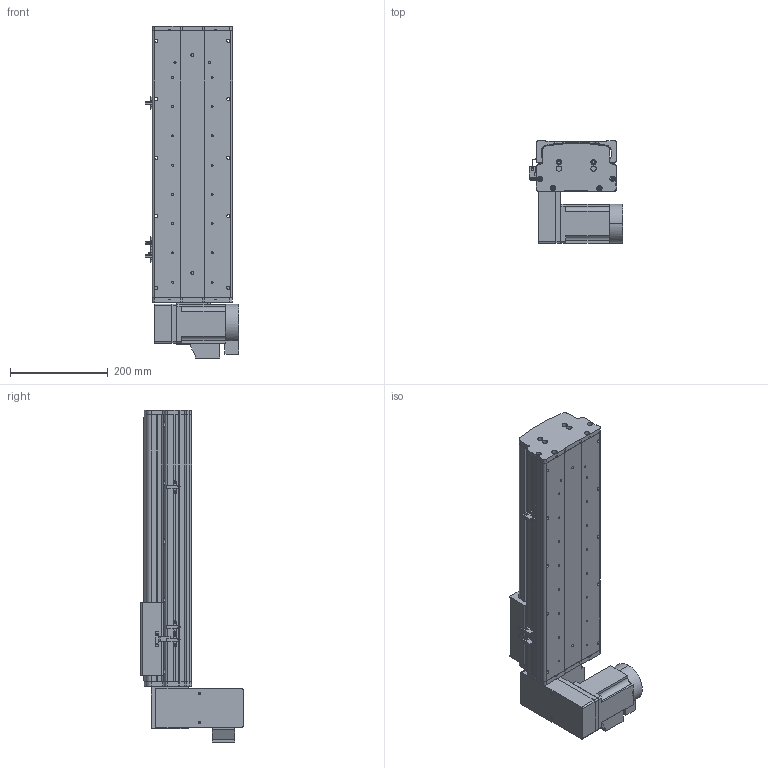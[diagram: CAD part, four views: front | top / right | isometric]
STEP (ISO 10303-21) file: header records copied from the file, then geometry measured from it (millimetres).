
FILE_DESCRIPTION (( 'STEP AP214' ), '1' );
FILE_NAME ('KSD165B-S300-MLD-CM.STEP', '2017-10-16T06:46:54', ( '微软用户' ), ( '微软中国' ), 'SwSTEP 2.0', 'SolidWorks 2014', '' );
FILE_SCHEMA (( 'AUTOMOTIVE_DESIGN' ));
Length unit declared in the file: millimetre
Products named in the file (18): 肣翐M4X35樓6; HTPA26S5M250-A-H8 750W萇儂蚚; HTPA26S5M250-A-H8 400W萇儂蚚 ; 130宽模组保护罩上下左右折-同步带; 130宽模组马达安装板连板上下折丝杆同步带; U倰嫖萇假蚾璃; U倰嫖萇EEㄜSX672; 覜茼え68遵圉猾敕; KSD165模组-同步带-防撞垫2; KSD165模组同步带-防撞垫1; KSD165耀郪-ヶ傷啣1-肮祭湍; KSD165模组-后端板1-同步带; KSD165模组-同步带滑动座-最新版; KSD165B-S300-MLD-CM; 拸秶雄ん750W侜督萇儂; 165宽马达安装板同步带左-改; KSD165模组-同步带防尘盖1-300行程-最新版; KSD165模组同步带底板-300行程-最新
Assembly tree (22 placements, depth 2):
  KSD165B-S300-MLD-CM
    KSD165模组-同步带滑动座-最新版
    KSD165模组-后端板1-同步带
    KSD165耀郪-ヶ傷啣1-肮祭湍
    KSD165模组同步带-防撞垫1
    KSD165模组-同步带-防撞垫2
    覜茼え68遵圉猾敕
    U倰嫖萇EEㄜSX672  x3
    U倰嫖萇假蚾璃  x3
    130宽模组马达安装板连板上下折丝杆同步带
    130宽模组保护罩上下左右折-同步带
    HTPA26S5M250-A-H8 400W萇儂蚚 
    HTPA26S5M250-A-H8 750W萇儂蚚
    肣翐M4X35樓6  x2
    KSD165模组同步带底板-300行程-最新
    KSD165模组-同步带防尘盖1-300行程-最新版
    165宽马达安装板同步带左-改
    拸秶雄ん750W侜督萇儂
Bounding box: 191.2 x 210 x 681 mm (x, y, z)
Volume: 4761003.4 mm3; surface area: 1099788.3 mm2
Topology: 23 solids, 24 shells, 1901 faces, 5330 edges, 3474 vertices
Faces by surface type: cylinder 1189, plane 596, cone 116
Entity records: 60322 total; most frequent: CARTESIAN_POINT 12328, DIRECTION 9984, ORIENTED_EDGE 9248, EDGE_CURVE 4624, AXIS2_PLACEMENT_3D 3899, VERTEX_POINT 3045, CIRCLE 2208, LINE 2186
